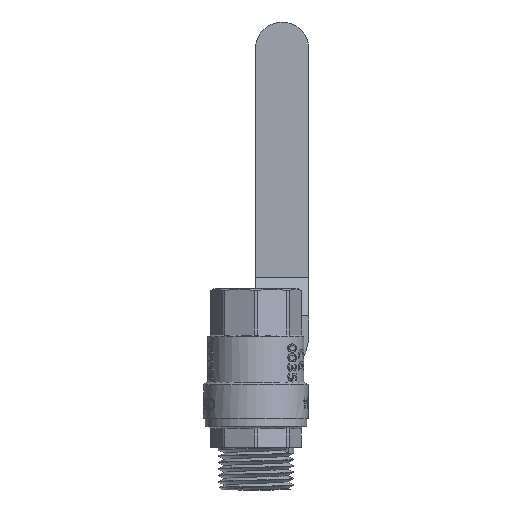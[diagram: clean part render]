
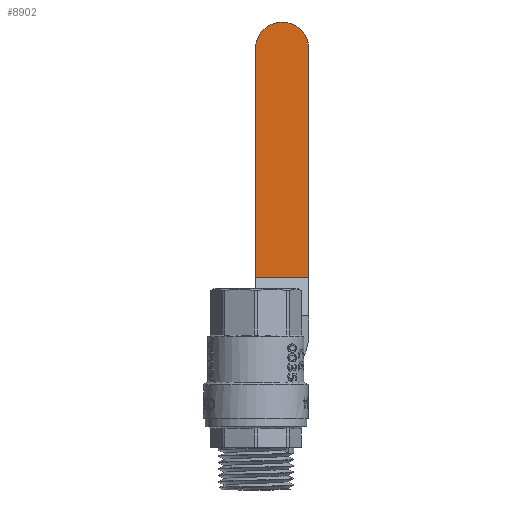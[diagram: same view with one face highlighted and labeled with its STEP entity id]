
A CAD part, front view. The second image highlights one B-rep face of the part: STEP entity #8902.
In plain terms, the highlighted planar face has unit normal (0, -1, 0).
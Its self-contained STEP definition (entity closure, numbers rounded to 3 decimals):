
#270=PLANE('',#9513);
#890=LINE('',#24982,#1517);
#895=LINE('',#24996,#1522);
#901=LINE('',#25006,#1528);
#1517=VECTOR('',#11290,10.);
#1522=VECTOR('',#11303,10.);
#1528=VECTOR('',#11313,10.);
#2670=FACE_OUTER_BOUND('',#3243,.T.);
#3243=EDGE_LOOP('',(#8234,#8235,#8236,#8237));
#3529=CIRCLE('',#9509,7.5);
#4396=VERTEX_POINT('',#24979);
#4397=VERTEX_POINT('',#24981);
#4400=VERTEX_POINT('',#24989);
#4402=VERTEX_POINT('',#24995);
#5697=EDGE_CURVE('',#4397,#4396,#890,.T.);
#5701=EDGE_CURVE('',#4400,#4397,#3529,.T.);
#5704=EDGE_CURVE('',#4402,#4400,#895,.T.);
#5710=EDGE_CURVE('',#4402,#4396,#901,.T.);
#8234=ORIENTED_EDGE('',*,*,#5697,.T.);
#8235=ORIENTED_EDGE('',*,*,#5710,.F.);
#8236=ORIENTED_EDGE('',*,*,#5704,.T.);
#8237=ORIENTED_EDGE('',*,*,#5701,.T.);
#8902=ADVANCED_FACE('',(#2670),#270,.T.);
#9509=AXIS2_PLACEMENT_3D('',#24990,#11296,#11297);
#9513=AXIS2_PLACEMENT_3D('',#25005,#11311,#11312);
#11290=DIRECTION('',(0.,0.,-1.));
#11296=DIRECTION('center_axis',(0.,-1.,0.));
#11297=DIRECTION('ref_axis',(1.,0.,0.));
#11303=DIRECTION('',(0.,0.,1.));
#11311=DIRECTION('center_axis',(0.,-1.,0.));
#11312=DIRECTION('ref_axis',(0.,0.,-1.));
#11313=DIRECTION('',(-1.,0.,0.));
#24979=CARTESIAN_POINT('',(-0.083,37.887,31.428));
#24981=CARTESIAN_POINT('',(-0.083,37.887,95.856));
#24982=CARTESIAN_POINT('',(-0.083,37.887,108.135));
#24989=CARTESIAN_POINT('',(14.917,37.887,95.856));
#24990=CARTESIAN_POINT('Origin',(7.417,37.887,95.856));
#24995=CARTESIAN_POINT('',(14.917,37.887,31.428));
#24996=CARTESIAN_POINT('',(14.917,37.887,67.953));
#25005=CARTESIAN_POINT('Origin',(0.,37.887,120.415));
#25006=CARTESIAN_POINT('',(0.,37.887,31.428));
